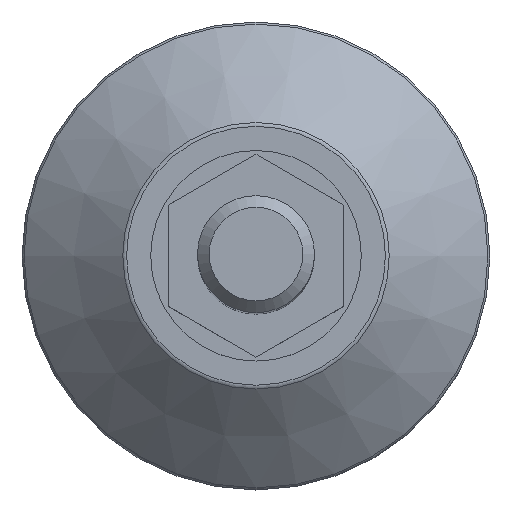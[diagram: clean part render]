
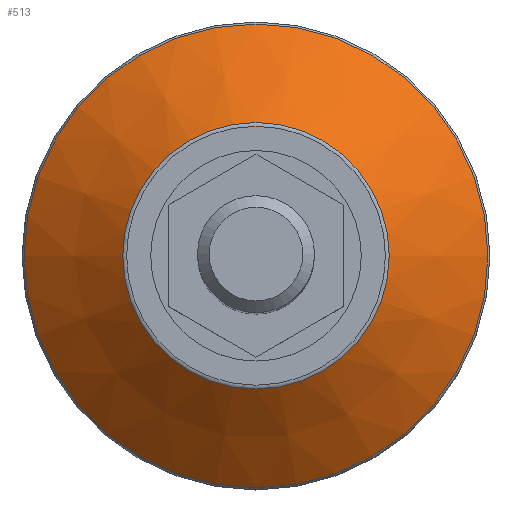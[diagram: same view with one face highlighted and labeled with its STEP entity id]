
A CAD part, top view. The second image highlights one B-rep face of the part: STEP entity #513.
In plain terms, the highlighted conical face has half-angle 49.399 degrees and reference radius 31.216 mm.
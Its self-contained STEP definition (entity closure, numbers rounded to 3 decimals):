
#85=CONICAL_SURFACE('',#566,31.216,49.399);
#94=FACE_BOUND('',#178,.T.);
#130=FACE_OUTER_BOUND('',#177,.T.);
#177=EDGE_LOOP('',(#400));
#178=EDGE_LOOP('',(#401));
#257=CIRCLE('',#564,22.781);
#259=CIRCLE('',#567,39.651);
#294=VERTEX_POINT('',#828);
#296=VERTEX_POINT('',#833);
#343=EDGE_CURVE('',#294,#294,#257,.T.);
#345=EDGE_CURVE('',#296,#296,#259,.T.);
#400=ORIENTED_EDGE('',*,*,#345,.T.);
#401=ORIENTED_EDGE('',*,*,#343,.F.);
#513=ADVANCED_FACE('',(#130,#94),#85,.T.);
#564=AXIS2_PLACEMENT_3D('',#829,#650,#651);
#566=AXIS2_PLACEMENT_3D('',#832,#654,#655);
#567=AXIS2_PLACEMENT_3D('',#834,#656,#657);
#650=DIRECTION('center_axis',(0.,0.,1.));
#651=DIRECTION('ref_axis',(1.,0.,0.));
#654=DIRECTION('center_axis',(0.,0.,-1.));
#655=DIRECTION('ref_axis',(1.,0.,0.));
#656=DIRECTION('center_axis',(0.,0.,1.));
#657=DIRECTION('ref_axis',(1.,0.,0.));
#828=CARTESIAN_POINT('',(-19.41,1.27,12.259));
#829=CARTESIAN_POINT('Origin',(3.371,1.27,12.259));
#832=CARTESIAN_POINT('Origin',(3.371,1.27,5.029));
#833=CARTESIAN_POINT('',(-36.28,1.27,-2.201));
#834=CARTESIAN_POINT('Origin',(3.371,1.27,-2.201));
